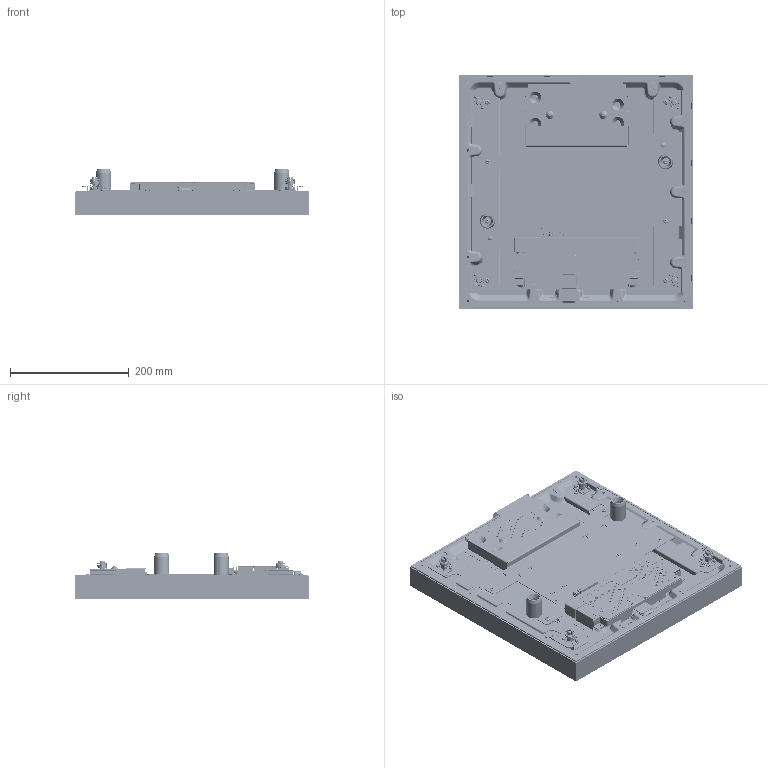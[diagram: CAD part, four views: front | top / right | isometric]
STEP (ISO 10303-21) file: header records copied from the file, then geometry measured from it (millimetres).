
FILE_DESCRIPTION (( 'STEP AP214' ), '1' );
FILE_NAME ('AD 22 Panel.STEP', '2012-09-11T17:15:04', ( 'landesk' ), ( 'Microsoft' ), 'SwSTEP 2.0', 'SolidWorks 2012', '' );
FILE_SCHEMA (( 'AUTOMOTIVE_DESIGN' ));
Length unit declared in the file: millimetre
Products named in the file (33): 3D_LTI216XM01_120514; 944-2829; 451-0117; 430450400; 801-0673_01; 801-0673; assy_module_216_vd_120119; 430250400_PreviewCfg; 572-3452; Ero Mullion tape_22 Mosaic Long; 572-3451; Ero Mullion tape_22 Mosaic Short; B18.6.7M - M3 x 0.5 x 10 Type I Cross Recessed PHMS --10N; B18.6.7M - M4 x 0.7 x 8 Type I Cross Recessed PHMS --8N_PreviewCfg; 572-3417; PEM TPS-3mm-8_PreviewCfg; PEM SO-3.5M3-6 ZI--N; 501-0672; 572-3413; PEM S-M3-1 ZI--N; PEM S-M4-1 ZI--N; RIVET - 125 BUTTON HEAD; 105-0127_Installed; 105-0127-a4-20-501-10_225-002-190_PRT-225-002-190_3; 105-0127-a4-20-501-10_225-103-200ASSY_PRT-225-103-20; 105-0127-a4-20-501-10_225-102-010_PRT-225-102-010_9; 105-0127-a4-20-501-10_225-101-500_PRT-225-101-500_18; 572-3419; AD 22 Panel
Assembly tree (47 placements, depth 4):
  801-0673_01
  AD 22 Panel
    572-3419
    572-3413  x2
      572-3413
      105-0127_Installed
        105-0127-a4-20-501-10_225-101-500_PRT-225-101-500_18
        105-0127-a4-20-501-10_225-102-010_PRT-225-102-010_9
        105-0127-a4-20-501-10_225-103-200ASSY_PRT-225-103-20
        105-0127-a4-20-501-10_225-002-190_PRT-225-002-190_3
      RIVET - 125 BUTTON HEAD
      PEM S-M4-1 ZI--N
      PEM S-M3-1 ZI--N
    501-0672  x2
    572-3417
      572-3417
      PEM SO-3.5M3-6 ZI--N
      PEM TPS-3mm-8_PreviewCfg
    B18.6.7M - M4 x 0.7 x 8 Type I Cross Recessed PHMS --8N_PreviewCfg  x10
    B18.6.7M - M3 x 0.5 x 10 Type I Cross Recessed PHMS --10N
    572-3451
      572-3451
      Ero Mullion tape_22 Mosaic Short
    572-3452
      572-3452
      Ero Mullion tape_22 Mosaic Long
    430250400_PreviewCfg
    assy_module_216_vd_120119
    944-2829
      801-0673
      430450400
      451-0117
    3D_LTI216XM01_120514
Bounding box: 395.21 x 395.24 x 76 mm (x, y, z)
Volume: 216090.6 mm3; surface area: 2846514 mm2
Topology: 41 solids, 81 shells, 20257 faces, 56144 edges, 36918 vertices
Faces by surface type: plane 11957, cylinder 4740, bspline 1734, cone 1652, torus 152, sphere 22
Entity records: 1041794 total; most frequent: CARTESIAN_POINT 382851, ORIENTED_EDGE 105274, DIRECTION 82953, EDGE_CURVE 52736, VERTEX_POINT 34857, LINE 33629, VECTOR 33629, AXIS2_PLACEMENT_3D 24662
